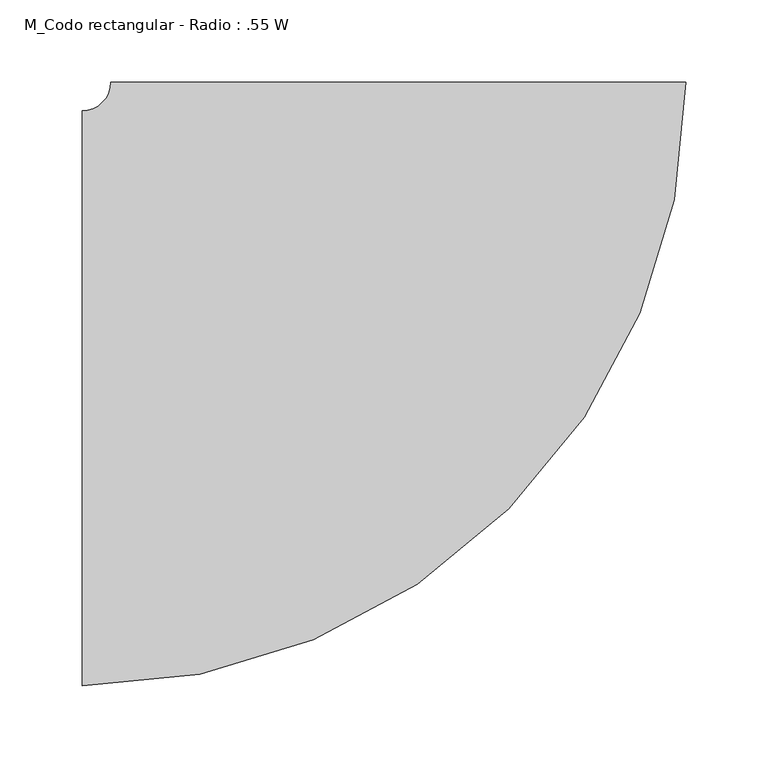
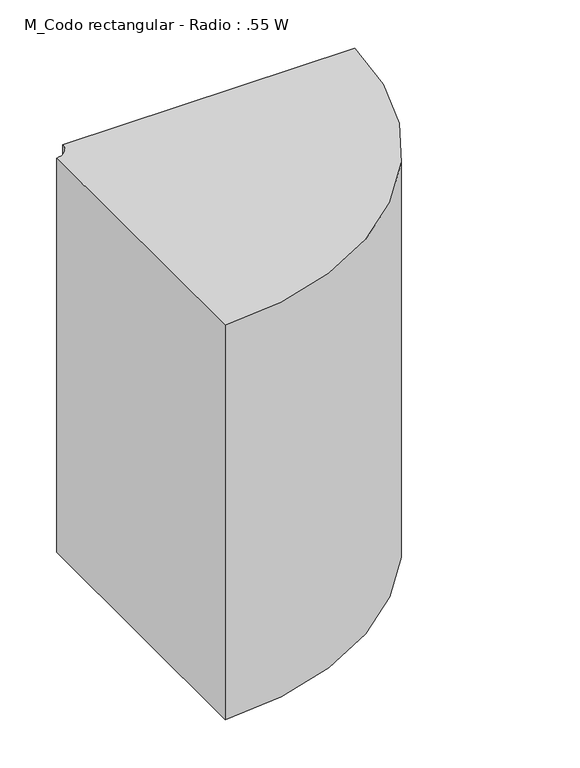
"""IFC4 building model written with IfcOpenShell, lengths in millimetres: duct fitting geometry, M_Codo rectangular - Radio : .55 W."""

from ifc_helpers import new_model, si_unit, point, frame, frame_2d, origin, place, context, project, spatial, polyline, circle_curve, trimmed, segment, composite_curve, outline, extrude, source, transform, mapped, element, save


def m_codo_rectangular_radio_55_w_5892e2ab(model_context):
    return source(origin(), model_context, "Body", "SweptSolid", [
        extrude(outline(composite_curve([segment(trimmed(circle_curve(frame_2d((-192.5, 192.5)), 367.5), [point((175.0, 192.5))], [point((-192.5, -175.0))], False, "CARTESIAN"), True, "CONTINUOUS"), segment(polyline([(-192.5, -175.0), (-192.5, 175.0)]), True, "CONTINUOUS"), segment(trimmed(circle_curve(frame_2d((-192.5, 192.5)), 17.5), [point((-192.5, 175.0))], [point((-175.0, 192.5))], True, "CARTESIAN"), True, "CONTINUOUS"), segment(polyline([(-175.0, 192.5), (175.0, 192.5)]), True, "CONTINUOUS")], self_intersect=False)), frame((0.0, 0.0, -250.0), z_axis=(0.0, 0.0, 1.0), x_axis=(1.0, 0.0, 0.0)), (0.0, 0.0, 1.0), 500.0),
    ])


if __name__ == "__main__":
    model = new_model("IFC4")
    model_context = context("Model", 3, world=origin())
    ifc_project = project(units=[si_unit("LENGTHUNIT", "METRE", prefix="MILLI")], contexts=[model_context])
    site = spatial("IfcSite", under=ifc_project)
    building = spatial("IfcBuilding", under=site)
    placement = place(None, origin())
    m_codo_rectangular_radio_55_w_shape = m_codo_rectangular_radio_55_w_5892e2ab(model_context)
    element("IfcDuctFitting", 1, ObjectType="M_Codo rectangular - Radio : .55 W", at=placement, inside=building, context=model_context, shape_type="MappedRepresentation", body=[
        mapped(m_codo_rectangular_radio_55_w_shape, transform((0.0, 0.0, 0.0), x_axis=(1.0, 0.0, 0.0), y_axis=(0.0, 1.0, 0.0), z_axis=(0.0, 0.0, 1.0))),
    ])
    save(model, "model.ifc")
